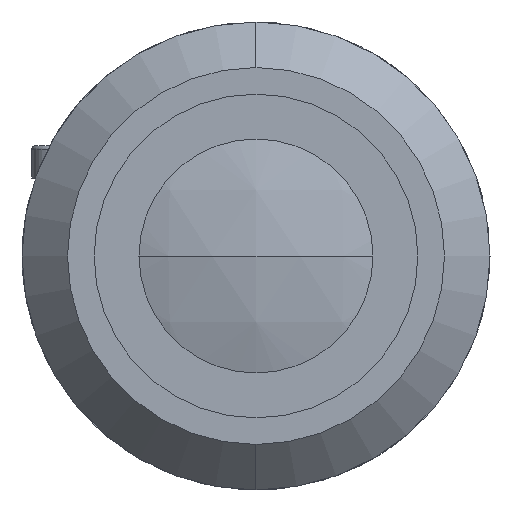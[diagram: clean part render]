
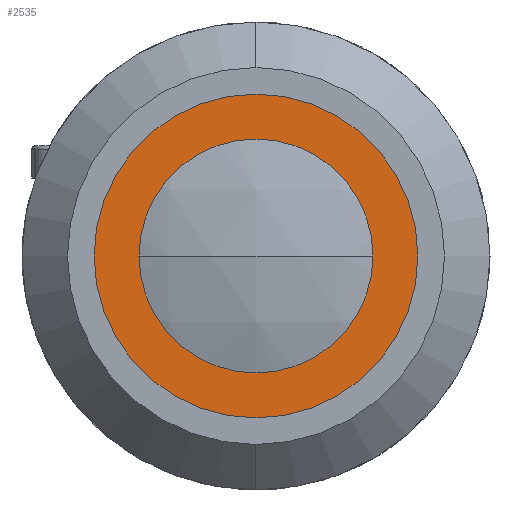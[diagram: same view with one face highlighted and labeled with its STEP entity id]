
A CAD part, left-side view. The second image highlights one B-rep face of the part: STEP entity #2535.
In plain terms, the highlighted planar face has unit normal (-1, 0, 0).
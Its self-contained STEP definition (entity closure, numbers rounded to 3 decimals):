
#244 = PLANE ( 'NONE',  #2175 ) ;
#262 = FACE_BOUND ( 'NONE', #745, .T. ) ;
#300 = FACE_OUTER_BOUND ( 'NONE', #2470, .T. ) ;
#478 = VERTEX_POINT ( 'NONE', #1967 ) ;
#493 = DIRECTION ( 'NONE',  ( 1., 0., 0. ) ) ;
#699 = DIRECTION ( 'NONE',  ( -1., 0., 0. ) ) ;
#739 = ORIENTED_EDGE ( 'NONE', *, *, #3384, .F. ) ;
#744 = ORIENTED_EDGE ( 'NONE', *, *, #3110, .F. ) ;
#745 = EDGE_LOOP ( 'NONE', ( #739, #744 ) ) ;
#792 = ORIENTED_EDGE ( 'NONE', *, *, #3343, .T. ) ;
#829 = ORIENTED_EDGE ( 'NONE', *, *, #3257, .T. ) ;
#900 = CARTESIAN_POINT ( 'NONE',  ( 3.5, 0., 0. ) ) ;
#931 = CARTESIAN_POINT ( 'NONE',  ( 3.5, 0., 0. ) ) ;
#1070 = AXIS2_PLACEMENT_3D ( 'NONE', #3210, #1568, #3433 ) ;
#1105 = CARTESIAN_POINT ( 'NONE',  ( 3.5, 0., 9. ) ) ;
#1184 = DIRECTION ( 'NONE',  ( 0., 0., 1. ) ) ;
#1185 = VERTEX_POINT ( 'NONE', #3411 ) ;
#1212 = DIRECTION ( 'NONE',  ( 0., 0., 1. ) ) ;
#1235 = AXIS2_PLACEMENT_3D ( 'NONE', #2400, #699, #2693 ) ;
#1449 = CIRCLE ( 'NONE', #1070, 9. ) ;
#1454 = AXIS2_PLACEMENT_3D ( 'NONE', #931, #2915, #1212 ) ;
#1528 = AXIS2_PLACEMENT_3D ( 'NONE', #900, #2884, #1184 ) ;
#1568 = DIRECTION ( 'NONE',  ( -1., 0., 0. ) ) ;
#1627 = CIRCLE ( 'NONE', #1235, 13.2 ) ;
#1775 = CARTESIAN_POINT ( 'NONE',  ( 3.5, 0., -9. ) ) ;
#1967 = CARTESIAN_POINT ( 'NONE',  ( 3.5, 0., 13.2 ) ) ;
#1987 = CIRCLE ( 'NONE', #1454, 13.2 ) ;
#2166 = CIRCLE ( 'NONE', #1528, 9. ) ;
#2175 = AXIS2_PLACEMENT_3D ( 'NONE', #3463, #493, #2488 ) ;
#2205 = VERTEX_POINT ( 'NONE', #1105 ) ;
#2336 = VERTEX_POINT ( 'NONE', #1775 ) ;
#2400 = CARTESIAN_POINT ( 'NONE',  ( 3.5, 0., 0. ) ) ;
#2470 = EDGE_LOOP ( 'NONE', ( #792, #829 ) ) ;
#2488 = DIRECTION ( 'NONE',  ( 0., 0., -1. ) ) ;
#2535 = ADVANCED_FACE ( 'NONE', ( #262, #300 ), #244, .F. ) ;
#2693 = DIRECTION ( 'NONE',  ( 0., 0., 1. ) ) ;
#2884 = DIRECTION ( 'NONE',  ( -1., 0., 0. ) ) ;
#2915 = DIRECTION ( 'NONE',  ( -1., 0., 0. ) ) ;
#3110 = EDGE_CURVE ( 'NONE', #2336, #2205, #2166, .T. ) ;
#3210 = CARTESIAN_POINT ( 'NONE',  ( 3.5, 0., 0. ) ) ;
#3257 = EDGE_CURVE ( 'NONE', #1185, #478, #1987, .T. ) ;
#3343 = EDGE_CURVE ( 'NONE', #478, #1185, #1627, .T. ) ;
#3384 = EDGE_CURVE ( 'NONE', #2205, #2336, #1449, .T. ) ;
#3411 = CARTESIAN_POINT ( 'NONE',  ( 3.5, 0., -13.2 ) ) ;
#3433 = DIRECTION ( 'NONE',  ( 0., 0., 1. ) ) ;
#3463 = CARTESIAN_POINT ( 'NONE',  ( 3.5, 13.2, 0. ) ) ;
